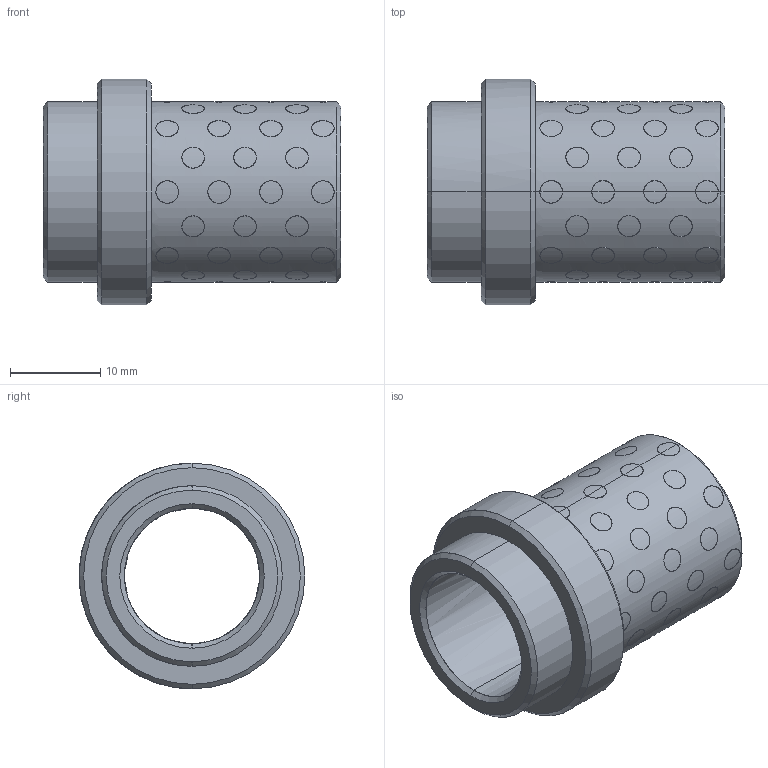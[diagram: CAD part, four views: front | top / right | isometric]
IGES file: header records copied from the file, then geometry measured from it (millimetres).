
Start section: START RECORD GO HERE.
Global section: file name: G31215027.igs; native system: DASSAULT SYSTEMES CATIA V5 R20 - www.3ds.com; preprocessor: CATIA Version 5 Release 20 ; author: r.borello; organization: CFTORINO; date: 20190624.121910; units: millimetre
Bounding box: 33 x 25 x 25 mm (x, y, z)
Surface area: 6437.4 mm2 (no closed solid volume)
Topology: 0 solids, 0 shells, 376 faces, 1632 edges, 1632 vertices
Faces by surface type: revolution 372, plane 4
